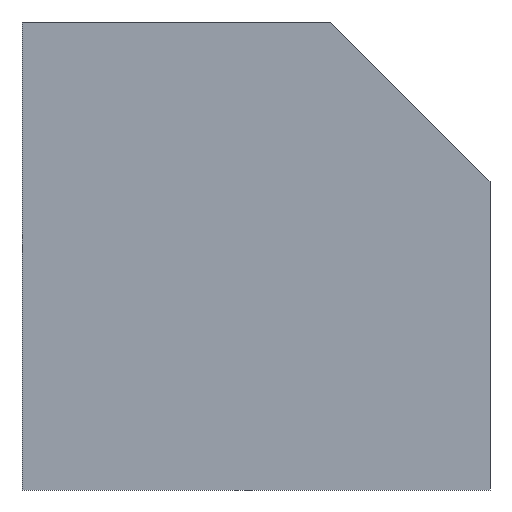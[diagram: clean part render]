
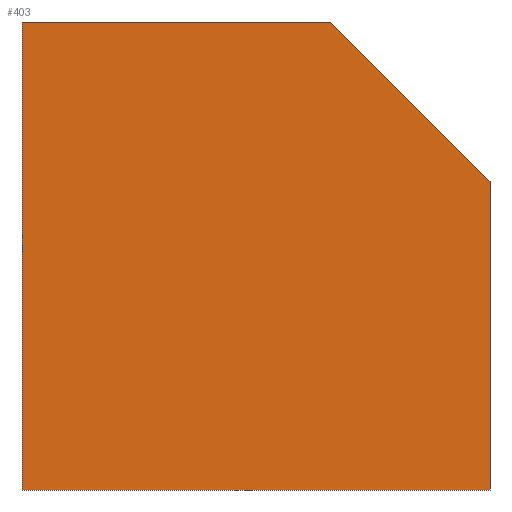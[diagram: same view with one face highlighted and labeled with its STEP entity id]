
A CAD part, front view. The second image highlights one B-rep face of the part: STEP entity #403.
In plain terms, the highlighted planar face has unit normal (0, -1, 0).
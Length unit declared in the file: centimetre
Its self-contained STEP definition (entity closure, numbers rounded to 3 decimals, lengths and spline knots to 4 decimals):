
#2 = VECTOR ( 'NONE', #378, 100. ) ;
#6 = DIRECTION ( 'NONE',  ( 0., 1., 0. ) ) ;
#7 = ORIENTED_EDGE ( 'NONE', *, *, #366, .F. ) ;
#16 = DIRECTION ( 'NONE',  ( -0.707, 0., 0.707 ) ) ;
#18 = CARTESIAN_POINT ( 'NONE',  ( 1000., 0., 0. ) ) ;
#24 = AXIS2_PLACEMENT_3D ( 'NONE', #370, #6, #54 ) ;
#29 = VERTEX_POINT ( 'NONE', #175 ) ;
#32 = EDGE_CURVE ( 'NONE', #85, #269, #200, .T. ) ;
#54 = DIRECTION ( 'NONE',  ( 0., 0., 1. ) ) ;
#64 = CARTESIAN_POINT ( 'NONE',  ( 1000., 0., 659.1556 ) ) ;
#80 = VECTOR ( 'NONE', #16, 100. ) ;
#85 = VERTEX_POINT ( 'NONE', #64 ) ;
#92 = DIRECTION ( 'NONE',  ( 0., 0., -1. ) ) ;
#116 = LINE ( 'NONE', #157, #468 ) ;
#145 = CARTESIAN_POINT ( 'NONE',  ( 1000., 0., 1000. ) ) ;
#157 = CARTESIAN_POINT ( 'NONE',  ( 0., 0., 1000. ) ) ;
#164 = EDGE_CURVE ( 'NONE', #85, #212, #456, .T. ) ;
#175 = CARTESIAN_POINT ( 'NONE',  ( 0., 0., 0. ) ) ;
#179 = CARTESIAN_POINT ( 'NONE',  ( 659.1556, 0., 1000. ) ) ;
#194 = VECTOR ( 'NONE', #476, 100. ) ;
#200 = LINE ( 'NONE', #145, #372 ) ;
#203 = VERTEX_POINT ( 'NONE', #211 ) ;
#211 = CARTESIAN_POINT ( 'NONE',  ( 0., 0., 1000. ) ) ;
#212 = VERTEX_POINT ( 'NONE', #245 ) ;
#216 = ORIENTED_EDGE ( 'NONE', *, *, #164, .T. ) ;
#234 = ORIENTED_EDGE ( 'NONE', *, *, #32, .F. ) ;
#236 = CARTESIAN_POINT ( 'NONE',  ( 0., 0., 0. ) ) ;
#245 = CARTESIAN_POINT ( 'NONE',  ( 659.1556, 0., 1000. ) ) ;
#253 = EDGE_CURVE ( 'NONE', #29, #269, #467, .T. ) ;
#259 = DIRECTION ( 'NONE',  ( 0., 0., -1. ) ) ;
#269 = VERTEX_POINT ( 'NONE', #18 ) ;
#300 = FACE_OUTER_BOUND ( 'NONE', #350, .T. ) ;
#329 = CARTESIAN_POINT ( 'NONE',  ( 0., 0., 1000. ) ) ;
#348 = EDGE_CURVE ( 'NONE', #203, #29, #116, .T. ) ;
#350 = EDGE_LOOP ( 'NONE', ( #234, #216, #7, #415, #379 ) ) ;
#362 = LINE ( 'NONE', #329, #194 ) ;
#366 = EDGE_CURVE ( 'NONE', #203, #212, #362, .T. ) ;
#370 = CARTESIAN_POINT ( 'NONE',  ( 0., 0., 1000. ) ) ;
#372 = VECTOR ( 'NONE', #92, 100. ) ;
#377 = PLANE ( 'NONE',  #24 ) ;
#378 = DIRECTION ( 'NONE',  ( 1., 0., 0. ) ) ;
#379 = ORIENTED_EDGE ( 'NONE', *, *, #253, .T. ) ;
#403 = ADVANCED_FACE ( 'NONE', ( #300 ), #377, .F. ) ;
#415 = ORIENTED_EDGE ( 'NONE', *, *, #348, .T. ) ;
#456 = LINE ( 'NONE', #179, #80 ) ;
#467 = LINE ( 'NONE', #236, #2 ) ;
#468 = VECTOR ( 'NONE', #259, 100. ) ;
#476 = DIRECTION ( 'NONE',  ( 1., 0., 0. ) ) ;
